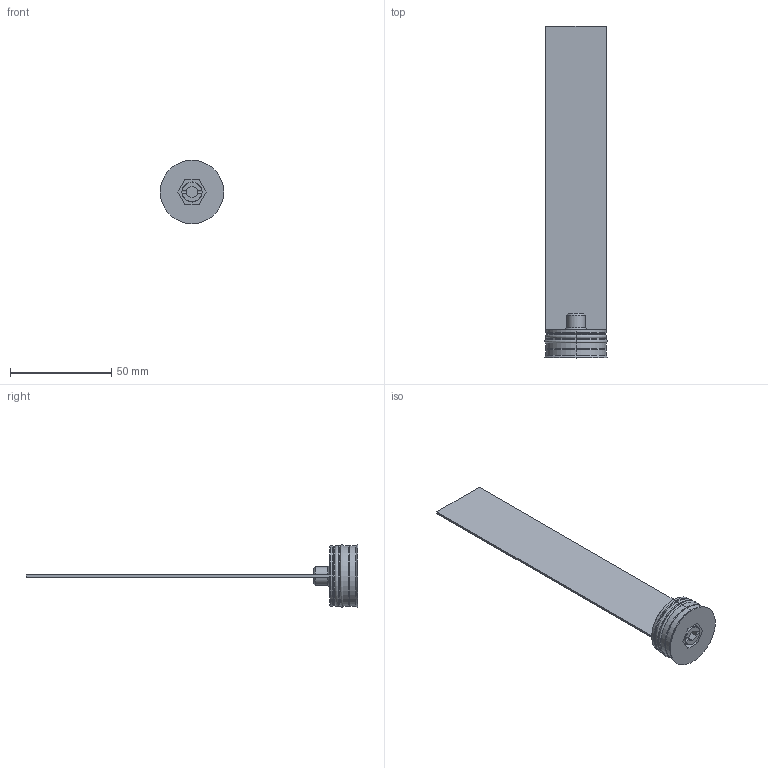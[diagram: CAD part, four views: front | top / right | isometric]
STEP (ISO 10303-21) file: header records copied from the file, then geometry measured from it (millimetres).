
FILE_DESCRIPTION (( 'STEP AP203' ), '1' );
FILE_NAME ('RL30x150F.STEP', '2015-12-04T10:21:13', ( 'Balzi' ), ( '' ), 'SwSTEP 2.0', 'SolidWorks 2015', '' );
FILE_SCHEMA (( 'CONFIG_CONTROL_DESIGN' ));
Length unit declared in the file: millimetre
Products named in the file (1): RL30x150F
Bounding box: 31.4 x 164 x 31.4 mm (x, y, z)
Volume: 14425.7 mm3; surface area: 12907.2 mm2
Topology: 1 solids, 1 shells, 75 faces, 177 edges, 109 vertices
Faces by surface type: plane 31, cone 19, cylinder 17, torus 8
Entity records: 2245 total; most frequent: CARTESIAN_POINT 412, DIRECTION 386, ORIENTED_EDGE 354, EDGE_CURVE 177, AXIS2_PLACEMENT_3D 147, VERTEX_POINT 109, VECTOR 92, LINE 92
